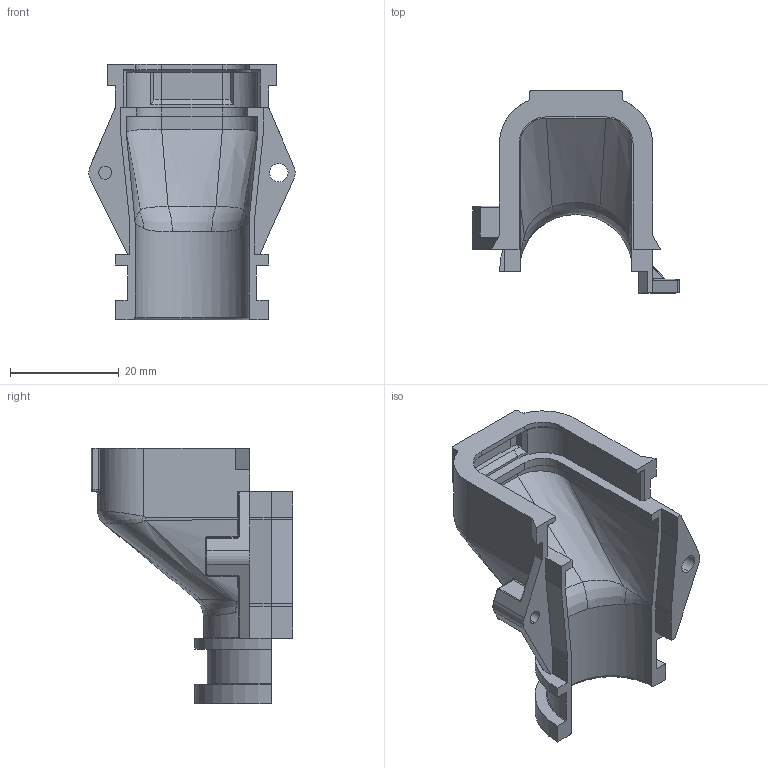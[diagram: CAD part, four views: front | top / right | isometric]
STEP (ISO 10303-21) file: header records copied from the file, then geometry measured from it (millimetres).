
FILE_DESCRIPTION((''),'2;1');
FILE_NAME('C-776463-1','2009-09-14T',('workeradm'),(''),'PRO/ENGINEER BY PARAMETRIC TECHNOLOGY CORPORATION, 2008380','PRO/ENGINEER BY PARAMETRIC TECHNOLOGY CORPORATION, 2008380','');
FILE_SCHEMA(('AUTOMOTIVE_DESIGN { 1 0 10303 214 1 1 1 1 }'));
Length unit declared in the file: millimetre
Products named in the file (1): C-776463-1
Bounding box: 37.99 x 37.2 x 47.1 mm (x, y, z)
Volume: 6758.1 mm3; surface area: 7636.6 mm2
Topology: 1 solids, 1 shells, 234 faces, 592 edges, 361 vertices
Faces by surface type: plane 78, cylinder 70, bspline 66, torus 10, sphere 6, cone 4
Entity records: 11376 total; most frequent: CARTESIAN_POINT 6163, ORIENTED_EDGE 1184, DIRECTION 943, EDGE_CURVE 592, VERTEX_POINT 361, AXIS2_PLACEMENT_3D 335, VECTOR 273, LINE 273
